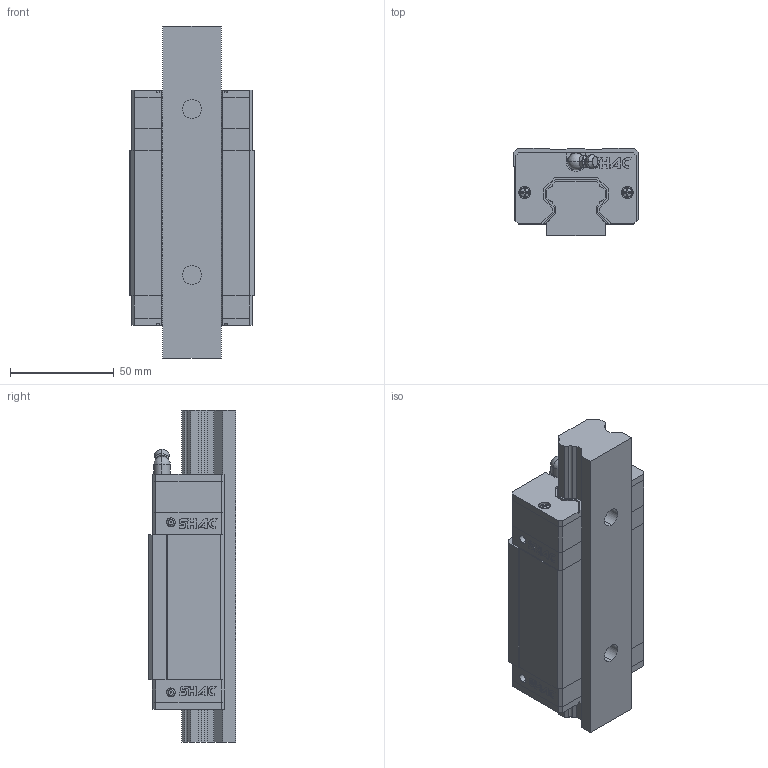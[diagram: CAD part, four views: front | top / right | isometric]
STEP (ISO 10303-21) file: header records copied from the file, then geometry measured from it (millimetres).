
FILE_DESCRIPTION (( 'STEP AP214' ), '1' );
FILE_NAME ('STP_GHL30CA_(E2)自润式_(R)上锁式_刮油片＋防尘条_160_160_1_GHL30CA_GHL30CA.step', '2020-06-27T02:33:10', ( 'IT Division' ), ( 'IT' ), 'SwSTEP 2.0', 'SolidWorks 2016', '' );
FILE_SCHEMA (( 'AUTOMOTIVE_DESIGN' ));
Length unit declared in the file: millimetre
Products named in the file (3): STP_GHL30CA_(E2)自润式_(R)上锁式_刮油片＋防尘条_160_160_1_GHL30CA_GHL30CA_1; STP_GHL30CA_(E2)自润式_(R)上锁式_刮油片＋防尘条_160_160_1_GHL30CA_GHL30CA_2; STP_GHL30CA_(E2)自润式_(R)上锁式_刮油片＋防尘条_160_160_1_GHL30CA_GHL30CA
Assembly tree (2 placements, depth 2):
  STP_GHL30CA_(E2)自润式_(R)上锁式_刮油片＋防尘条_160_160_1_GHL30CA_GHL30CA
    STP_GHL30CA_(E2)自润式_(R)上锁式_刮油片＋防尘条_160_160_1_GHL30CA_GHL30CA_1
    STP_GHL30CA_(E2)自润式_(R)上锁式_刮油片＋防尘条_160_160_1_GHL30CA_GHL30CA_2
Bounding box: 60 x 42 x 160 mm (x, y, z)
Volume: 277096.3 mm3; surface area: 67672.9 mm2
Topology: 8 solids, 8 shells, 850 faces, 2277 edges, 1494 vertices
Faces by surface type: plane 626, cylinder 158, cone 31, torus 25, sphere 10
Entity records: 29299 total; most frequent: CARTESIAN_POINT 4788, ORIENTED_EDGE 4530, DIRECTION 4404, EDGE_CURVE 2265, LINE 1764, VECTOR 1764, VERTEX_POINT 1492, AXIS2_PLACEMENT_3D 1320
